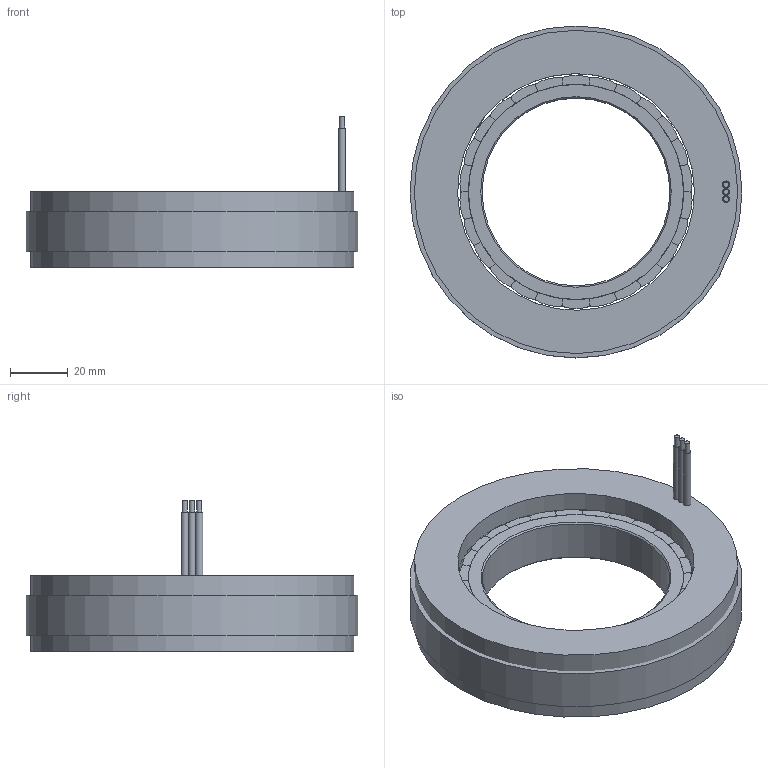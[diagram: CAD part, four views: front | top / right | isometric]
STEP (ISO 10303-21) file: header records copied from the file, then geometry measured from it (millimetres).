
FILE_DESCRIPTION (( 'STEP AP203' ), '1' );
FILE_NAME ('U11526µç»ú.STEP', '2024-03-09T08:06:51', ( '' ), ( '' ), 'SwSTEP 2.0', 'SolidWorks 2022', '' );
FILE_SCHEMA (( 'CONFIG_CONTROL_DESIGN' ));
Length unit declared in the file: millimetre
Products named in the file (1): U11526萇儂
Bounding box: 115 x 115 x 52.3 mm (x, y, z)
Volume: 222080.7 mm3; surface area: 102053.1 mm2
Topology: 56 solids, 56 shells, 866 faces, 2245 edges, 1497 vertices
Faces by surface type: plane 506, cylinder 358, cone 2
Full cylindrical faces by diameter (mm): 1.8 x6, 2.5 x3, 65 x1, 74.5 x1, 82 x1, 112 x1, 115 x1
Entity records: 26563 total; most frequent: DIRECTION 4678, CARTESIAN_POINT 4587, ORIENTED_EDGE 4452, EDGE_CURVE 2226, AXIS2_PLACEMENT_3D 1585, LINE 1508, VECTOR 1508, VERTEX_POINT 1494
